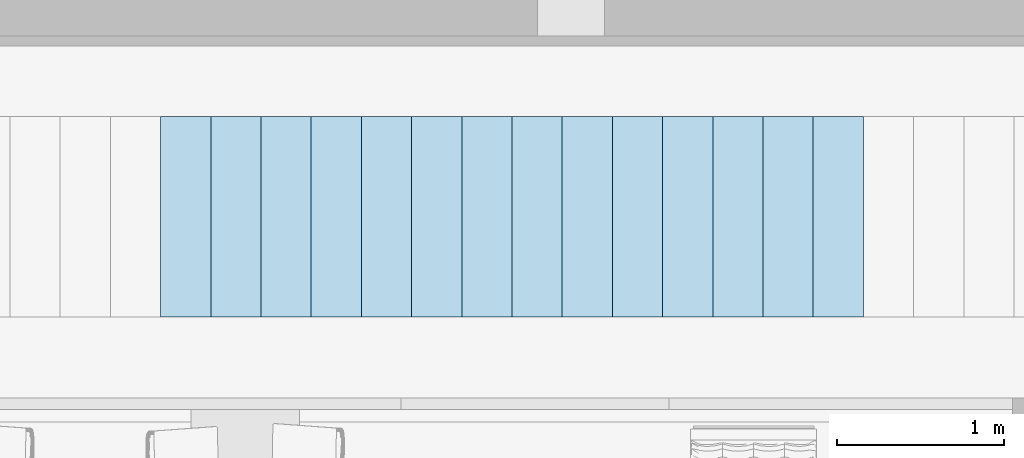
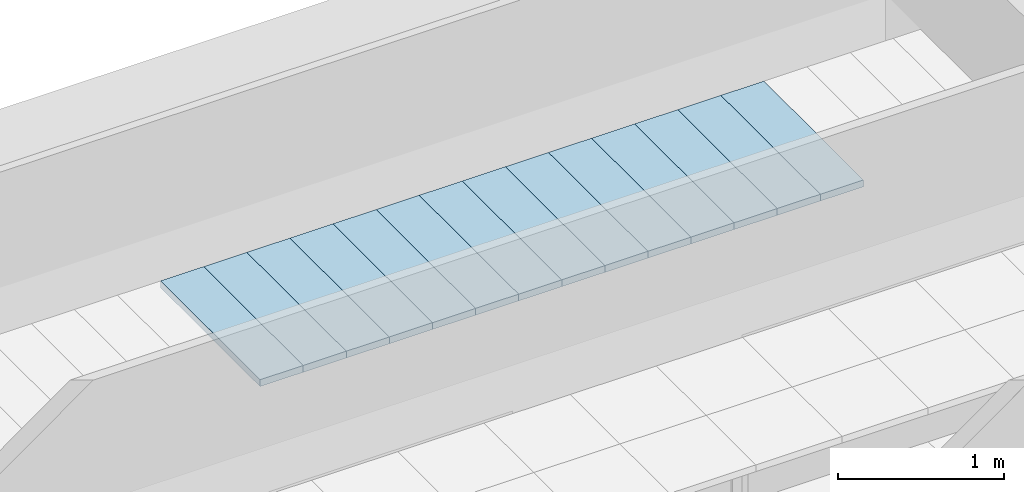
# One storey, part 9 of 68: 14 slabs.
"""IFC2X3 building model written with IfcOpenShell, lengths in millimetres."""

from ifc_helpers import new_model, entity, si_unit, converted_unit, derived_unit, money_unit, direction, frame, origin_with_axes, place, context, subcontext, project, spatial, polyline, outline, extrude, material, layer, layer_set, layer_usage, type_object, element, save


model = new_model("IFC2X3")

# Units and contexts
model_context = context("Model", 3, precision=0.01, world=origin_with_axes(), true_north=direction((0.0, 1.0)))
body_context = subcontext(model_context, "Body", "Model", "MODEL_VIEW")
ifc_project = project(units=[si_unit("LENGTHUNIT", "METRE", prefix="MILLI"), si_unit("AREAUNIT", "SQUARE_METRE"), si_unit("VOLUMEUNIT", "CUBIC_METRE"), converted_unit("PLANEANGLEUNIT", "DEGREE", entity("IfcPlaneAngleMeasure", 0.0174532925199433), si_unit("PLANEANGLEUNIT", "RADIAN"), dimensions=[0, 0, 0, 0, 0, 0, 0]), money_unit("USD"), converted_unit("TIMEUNIT", "Year", entity("IfcTimeMeasure", 31557600.0), si_unit("TIMEUNIT", "SECOND"), dimensions=[0, 0, 1, 0, 0, 0, 0]), si_unit("MASSUNIT", "GRAM", prefix="KILO"), si_unit("THERMODYNAMICTEMPERATUREUNIT", "DEGREE_CELSIUS"), si_unit("LUMINOUSINTENSITYUNIT", "LUMEN"), si_unit("ENERGYUNIT", "JOULE", prefix="MEGA"), derived_unit("THERMALCONDUCTANCEUNIT", [(si_unit("POWERUNIT", "WATT"), 1), (si_unit("LENGTHUNIT", "METRE"), -1), (si_unit("THERMODYNAMICTEMPERATUREUNIT", "KELVIN"), -1)]), derived_unit("SPECIFICHEATCAPACITYUNIT", [(si_unit("ENERGYUNIT", "JOULE"), 1), (si_unit("MASSUNIT", "GRAM", prefix="KILO"), -1), (si_unit("THERMODYNAMICTEMPERATUREUNIT", "KELVIN"), -1)]), derived_unit("MASSDENSITYUNIT", [(si_unit("MASSUNIT", "GRAM", prefix="KILO"), 1), (si_unit("VOLUMEUNIT", "CUBIC_METRE"), -1)])], contexts=[model_context])

# Site, building, storey
site_placement = place(None, origin_with_axes())
site = spatial("IfcSite", under=ifc_project, at=site_placement, Name="Sitio", CompositionType="ELEMENT")
building_placement = place(site_placement, origin_with_axes())
building = spatial("IfcBuilding", under=site, at=building_placement, Name="Construcción", CompositionType="ELEMENT")
storey_placement = place(building_placement, origin_with_axes())
storey = spatial("IfcBuildingStorey", under=building, at=storey_placement, Name="PLANTA 1ª", CompositionType="ELEMENT", Elevation=0.0)

# Slabs
ifc_material = material(Name="ARQ_ME126_CelRas_Placa_Metallica")
ifc_layer = layer(ifc_material, 50.0, ventilated="UNKNOWN")
ifc_layer_set = layer_set([ifc_layer], Name="ARQ_ME126_CelRas_Placa_Metallica 50")
ifc_layer_usage_1 = layer_usage(ifc_layer_set, "AXIS3", "NEGATIVE", 50.0)
slab_type = type_object("IfcSlabType", Name="ARQ_ME126_CelRas_Placa_Metallica 50", PredefinedType="NOTDEFINED")
slab_1_placement = place(storey_placement, frame((-24161.6828658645, 3382.153621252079, 2500.0), z_axis=(0.0, 0.0, 1.0), x_axis=(1.0, 0.0, 0.0)))
element("IfcSlab", 1, at=slab_1_placement, inside=storey, type_object=slab_type, material=ifc_layer_usage_1, Name="SLA - 026", PredefinedType="NOTDEFINED", context=body_context, shape_type="SweptSolid", body=[
    extrude(outline(polyline([(0.0, 0.0), (0.0, -1199.999999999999), (300.0000000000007, -1199.999999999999), (300.0000000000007, 0.0), (0.0, 0.0)])), frame((0.0, 0.0, -50.0), z_axis=(0.0, 0.0, 1.0), x_axis=(1.0, 0.0, 0.0)), (0.0, 0.0, 1.0), 50.0),
])
ifc_layer_usage_2 = layer_usage(ifc_layer_set, "AXIS3", "NEGATIVE", 50.0)
slab_2_placement = place(storey_placement, frame((-23561.6828658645, 3382.153621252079, 2500.0), z_axis=(0.0, 0.0, 1.0), x_axis=(1.0, 0.0, 0.0)))
element("IfcSlab", 2, at=slab_2_placement, inside=storey, type_object=slab_type, material=ifc_layer_usage_2, Name="SLA - 026", PredefinedType="NOTDEFINED", context=body_context, shape_type="SweptSolid", body=[
    extrude(outline(polyline([(0.0, 0.0), (0.0, -1199.999999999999), (300.0000000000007, -1199.999999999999), (300.0000000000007, 0.0), (0.0, 0.0)])), frame((0.0, 0.0, -50.0), z_axis=(0.0, 0.0, 1.0), x_axis=(1.0, 0.0, 0.0)), (0.0, 0.0, 1.0), 50.0),
])
ifc_layer_usage_3 = layer_usage(ifc_layer_set, "AXIS3", "NEGATIVE", 50.0)
slab_3_placement = place(storey_placement, frame((-23861.6828658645, 3382.153621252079, 2500.0), z_axis=(0.0, 0.0, 1.0), x_axis=(1.0, 0.0, 0.0)))
element("IfcSlab", 3, at=slab_3_placement, inside=storey, type_object=slab_type, material=ifc_layer_usage_3, Name="SLA - 026", PredefinedType="NOTDEFINED", context=body_context, shape_type="SweptSolid", body=[
    extrude(outline(polyline([(0.0, 0.0), (0.0, -1199.999999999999), (300.0000000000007, -1199.999999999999), (300.0000000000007, 0.0), (0.0, 0.0)])), frame((0.0, 0.0, -50.0), z_axis=(0.0, 0.0, 1.0), x_axis=(1.0, 0.0, 0.0)), (0.0, 0.0, 1.0), 50.0),
])
ifc_layer_usage_4 = layer_usage(ifc_layer_set, "AXIS3", "NEGATIVE", 50.0)
slab_4_placement = place(storey_placement, frame((-23261.6828658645, 3382.153621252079, 2500.0), z_axis=(0.0, 0.0, 1.0), x_axis=(1.0, 0.0, 0.0)))
element("IfcSlab", 4, at=slab_4_placement, inside=storey, type_object=slab_type, material=ifc_layer_usage_4, Name="SLA - 026", PredefinedType="NOTDEFINED", context=body_context, shape_type="SweptSolid", body=[
    extrude(outline(polyline([(0.0, 0.0), (0.0, -1199.999999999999), (300.0000000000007, -1199.999999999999), (300.0000000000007, 0.0), (0.0, 0.0)])), frame((0.0, 0.0, -50.0), z_axis=(0.0, 0.0, 1.0), x_axis=(1.0, 0.0, 0.0)), (0.0, 0.0, 1.0), 50.0),
])
ifc_layer_usage_5 = layer_usage(ifc_layer_set, "AXIS3", "NEGATIVE", 50.0)
slab_5_placement = place(storey_placement, frame((-22961.6828658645, 3382.153621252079, 2500.0), z_axis=(0.0, 0.0, 1.0), x_axis=(1.0, 0.0, 0.0)))
element("IfcSlab", 5, at=slab_5_placement, inside=storey, type_object=slab_type, material=ifc_layer_usage_5, Name="SLA - 026", PredefinedType="NOTDEFINED", context=body_context, shape_type="SweptSolid", body=[
    extrude(outline(polyline([(0.0, 0.0), (0.0, -1199.999999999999), (300.0000000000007, -1199.999999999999), (300.0000000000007, 0.0), (0.0, 0.0)])), frame((0.0, 0.0, -50.0), z_axis=(0.0, 0.0, 1.0), x_axis=(1.0, 0.0, 0.0)), (0.0, 0.0, 1.0), 50.0),
])
ifc_layer_usage_6 = layer_usage(ifc_layer_set, "AXIS3", "NEGATIVE", 50.0)
slab_6_placement = place(storey_placement, frame((-22661.6828658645, 3382.153621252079, 2500.0), z_axis=(0.0, 0.0, 1.0), x_axis=(1.0, 0.0, 0.0)))
element("IfcSlab", 6, at=slab_6_placement, inside=storey, type_object=slab_type, material=ifc_layer_usage_6, Name="SLA - 026", PredefinedType="NOTDEFINED", context=body_context, shape_type="SweptSolid", body=[
    extrude(outline(polyline([(0.0, 0.0), (0.0, -1199.999999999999), (300.0000000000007, -1199.999999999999), (300.0000000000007, 0.0), (0.0, 0.0)])), frame((0.0, 0.0, -50.0), z_axis=(0.0, 0.0, 1.0), x_axis=(1.0, 0.0, 0.0)), (0.0, 0.0, 1.0), 50.0),
])
ifc_layer_usage_7 = layer_usage(ifc_layer_set, "AXIS3", "NEGATIVE", 50.0)
slab_7_placement = place(storey_placement, frame((-22061.6828658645, 3382.153621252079, 2500.0), z_axis=(0.0, 0.0, 1.0), x_axis=(1.0, 0.0, 0.0)))
element("IfcSlab", 7, at=slab_7_placement, inside=storey, type_object=slab_type, material=ifc_layer_usage_7, Name="SLA - 026", PredefinedType="NOTDEFINED", context=body_context, shape_type="SweptSolid", body=[
    extrude(outline(polyline([(0.0, 0.0), (0.0, -1199.999999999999), (300.0000000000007, -1199.999999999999), (300.0000000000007, 0.0), (0.0, 0.0)])), frame((0.0, 0.0, -50.0), z_axis=(0.0, 0.0, 1.0), x_axis=(1.0, 0.0, 0.0)), (0.0, 0.0, 1.0), 50.0),
])
ifc_layer_usage_8 = layer_usage(ifc_layer_set, "AXIS3", "NEGATIVE", 50.0)
slab_8_placement = place(storey_placement, frame((-22361.6828658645, 3382.153621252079, 2500.0), z_axis=(0.0, 0.0, 1.0), x_axis=(1.0, 0.0, 0.0)))
element("IfcSlab", 8, at=slab_8_placement, inside=storey, type_object=slab_type, material=ifc_layer_usage_8, Name="SLA - 026", PredefinedType="NOTDEFINED", context=body_context, shape_type="SweptSolid", body=[
    extrude(outline(polyline([(0.0, 0.0), (0.0, -1199.999999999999), (300.0000000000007, -1199.999999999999), (300.0000000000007, 0.0), (0.0, 0.0)])), frame((0.0, 0.0, -50.0), z_axis=(0.0, 0.0, 1.0), x_axis=(1.0, 0.0, 0.0)), (0.0, 0.0, 1.0), 50.0),
])
ifc_layer_usage_9 = layer_usage(ifc_layer_set, "AXIS3", "NEGATIVE", 50.0)
slab_9_placement = place(storey_placement, frame((-21761.6828658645, 3382.153621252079, 2500.0), z_axis=(0.0, 0.0, 1.0), x_axis=(1.0, 0.0, 0.0)))
element("IfcSlab", 9, at=slab_9_placement, inside=storey, type_object=slab_type, material=ifc_layer_usage_9, Name="SLA - 026", PredefinedType="NOTDEFINED", context=body_context, shape_type="SweptSolid", body=[
    extrude(outline(polyline([(0.0, 0.0), (0.0, -1199.999999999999), (300.0000000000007, -1199.999999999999), (300.0000000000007, 0.0), (0.0, 0.0)])), frame((0.0, 0.0, -50.0), z_axis=(0.0, 0.0, 1.0), x_axis=(1.0, 0.0, 0.0)), (0.0, 0.0, 1.0), 50.0),
])
ifc_layer_usage_10 = layer_usage(ifc_layer_set, "AXIS3", "NEGATIVE", 50.0)
slab_10_placement = place(storey_placement, frame((-21461.6828658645, 3382.153621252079, 2500.0), z_axis=(0.0, 0.0, 1.0), x_axis=(1.0, 0.0, 0.0)))
element("IfcSlab", 10, at=slab_10_placement, inside=storey, type_object=slab_type, material=ifc_layer_usage_10, Name="SLA - 026", PredefinedType="NOTDEFINED", context=body_context, shape_type="SweptSolid", body=[
    extrude(outline(polyline([(0.0, 0.0), (0.0, -1199.999999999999), (300.0000000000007, -1199.999999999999), (300.0000000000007, 0.0), (0.0, 0.0)])), frame((0.0, 0.0, -50.0), z_axis=(0.0, 0.0, 1.0), x_axis=(1.0, 0.0, 0.0)), (0.0, 0.0, 1.0), 50.0),
])
ifc_layer_usage_11 = layer_usage(ifc_layer_set, "AXIS3", "NEGATIVE", 50.0)
slab_11_placement = place(storey_placement, frame((-21161.6828658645, 3382.153621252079, 2500.0), z_axis=(0.0, 0.0, 1.0), x_axis=(1.0, 0.0, 0.0)))
element("IfcSlab", 11, at=slab_11_placement, inside=storey, type_object=slab_type, material=ifc_layer_usage_11, Name="SLA - 026", PredefinedType="NOTDEFINED", context=body_context, shape_type="SweptSolid", body=[
    extrude(outline(polyline([(0.0, 0.0), (0.0, -1199.999999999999), (300.0000000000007, -1199.999999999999), (300.0000000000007, 0.0), (0.0, 0.0)])), frame((0.0, 0.0, -50.0), z_axis=(0.0, 0.0, 1.0), x_axis=(1.0, 0.0, 0.0)), (0.0, 0.0, 1.0), 50.0),
])
ifc_layer_usage_12 = layer_usage(ifc_layer_set, "AXIS3", "NEGATIVE", 50.0)
slab_12_placement = place(storey_placement, frame((-20861.6828658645, 3382.153621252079, 2500.0), z_axis=(0.0, 0.0, 1.0), x_axis=(1.0, 0.0, 0.0)))
element("IfcSlab", 12, at=slab_12_placement, inside=storey, type_object=slab_type, material=ifc_layer_usage_12, Name="SLA - 026", PredefinedType="NOTDEFINED", context=body_context, shape_type="SweptSolid", body=[
    extrude(outline(polyline([(0.0, 0.0), (0.0, -1199.999999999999), (300.0000000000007, -1199.999999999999), (300.0000000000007, 0.0), (0.0, 0.0)])), frame((0.0, 0.0, -50.0), z_axis=(0.0, 0.0, 1.0), x_axis=(1.0, 0.0, 0.0)), (0.0, 0.0, 1.0), 50.0),
])
ifc_layer_usage_13 = layer_usage(ifc_layer_set, "AXIS3", "NEGATIVE", 50.0)
slab_13_placement = place(storey_placement, frame((-20561.6828658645, 3382.153621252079, 2500.0), z_axis=(0.0, 0.0, 1.0), x_axis=(1.0, 0.0, 0.0)))
element("IfcSlab", 13, at=slab_13_placement, inside=storey, type_object=slab_type, material=ifc_layer_usage_13, Name="SLA - 026", PredefinedType="NOTDEFINED", context=body_context, shape_type="SweptSolid", body=[
    extrude(outline(polyline([(0.0, 0.0), (0.0, -1199.999999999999), (300.0000000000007, -1199.999999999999), (300.0000000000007, 0.0), (0.0, 0.0)])), frame((0.0, 0.0, -50.0), z_axis=(0.0, 0.0, 1.0), x_axis=(1.0, 0.0, 0.0)), (0.0, 0.0, 1.0), 50.0),
])
ifc_layer_usage_14 = layer_usage(ifc_layer_set, "AXIS3", "NEGATIVE", 50.0)
slab_14_placement = place(storey_placement, frame((-20261.6828658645, 3382.153621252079, 2500.0), z_axis=(0.0, 0.0, 1.0), x_axis=(1.0, 0.0, 0.0)))
element("IfcSlab", 14, at=slab_14_placement, inside=storey, type_object=slab_type, material=ifc_layer_usage_14, Name="SLA - 026", PredefinedType="NOTDEFINED", context=body_context, shape_type="SweptSolid", body=[
    extrude(outline(polyline([(0.0, 0.0), (0.0, -1199.999999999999), (300.0000000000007, -1199.999999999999), (300.0000000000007, 0.0), (0.0, 0.0)])), frame((0.0, 0.0, -50.0), z_axis=(0.0, 0.0, 1.0), x_axis=(1.0, 0.0, 0.0)), (0.0, 0.0, 1.0), 50.0),
])

save(model, "model.ifc")
